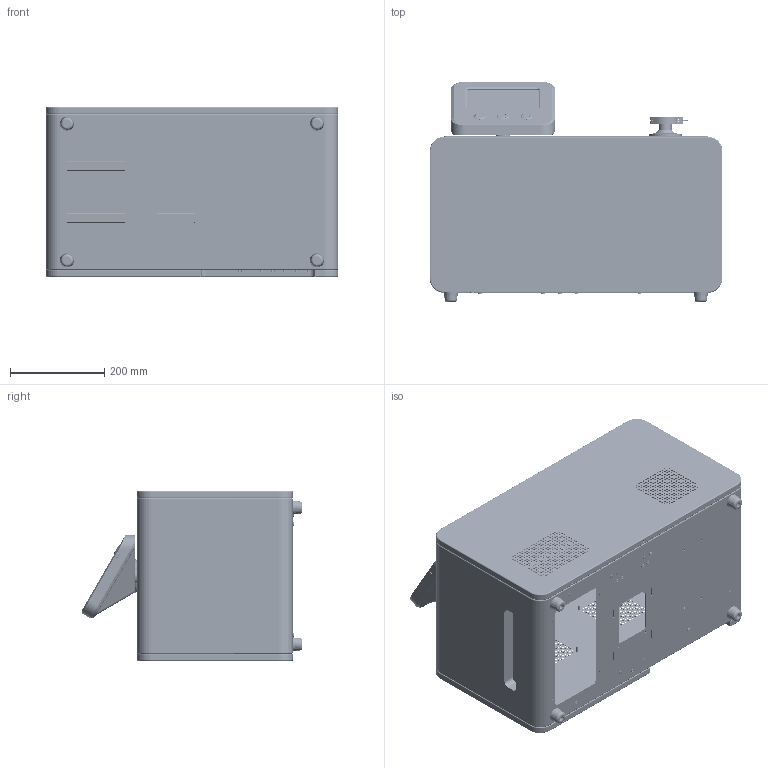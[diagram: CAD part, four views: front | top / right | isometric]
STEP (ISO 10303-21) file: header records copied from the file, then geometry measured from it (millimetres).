
FILE_DESCRIPTION (( 'STEP AP203' ), '1' );
FILE_NAME ('NHJ600 俋夤軞傖.STEP', '2026-08-28T08:18:53', ( '' ), ( '' ), 'SwSTEP 2.0', 'SolidWorks 2024', '' );
FILE_SCHEMA (( 'CONFIG_CONTROL_DESIGN' ));
Products named in the file (1): NHJ600 外观总成
Bounding box: 620.3 x 467 x 360 mm (x, y, z)
Volume: 4018258.5 mm3; surface area: 3597707.7 mm2
Topology: 55 solids, 57 shells, 7173 faces, 19341 edges, 12711 vertices
Faces by surface type: cylinder 3450, plane 2738, bspline 718, cone 200, torus 67
Entity records: 265611 total; most frequent: CARTESIAN_POINT 79496, ORIENTED_EDGE 38610, DIRECTION 37655, EDGE_CURVE 19305, AXIS2_PLACEMENT_3D 13629, VERTEX_POINT 12711, LINE 10397, VECTOR 10397
